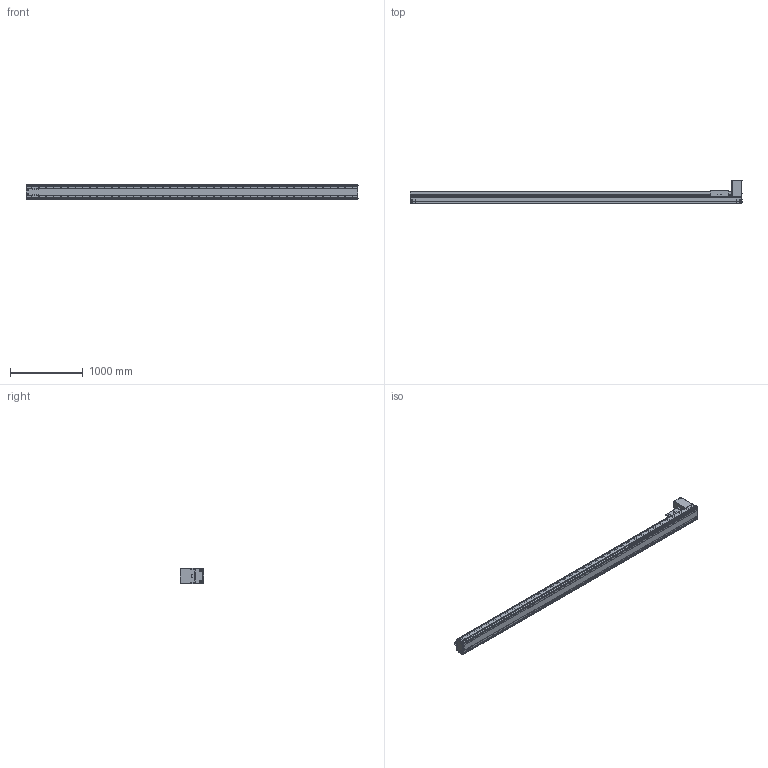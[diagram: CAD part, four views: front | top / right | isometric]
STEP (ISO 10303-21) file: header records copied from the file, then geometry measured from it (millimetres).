
FILE_DESCRIPTION((''),'2;1');
FILE_NAME('BE60J-BT-M19N-X05_IGS_PRT','2017-06-18T',(' '),(''),'PRO/ENGINEER BY PARAMETRIC TECHNOLOGY CORPORATION, 2015030','PRO/ENGINEER BY PARAMETRIC TECHNOLOGY CORPORATION, 2015030','');
FILE_SCHEMA(('CONFIG_CONTROL_DESIGN'));
Products named in the file (1): BE60J-BT-M19N-X05_IGS_PRT
Bounding box: 4554.4 x 327.5 x 214 mm (x, y, z)
Volume: 35683326.2 mm3; surface area: 10442508.8 mm2
Topology: 2 solids, 347 shells, 3031 faces, 9017 edges, 6034 vertices
Faces by surface type: cylinder 1696, plane 995, cone 244, sphere 48, torus 48
Entity records: 105433 total; most frequent: CARTESIAN_POINT 25240, DIRECTION 16445, ORIENTED_EDGE 16072, EDGE_CURVE 8710, AXIS2_PLACEMENT_3D 6329, VERTEX_POINT 5994, EDGE_LOOP 3836, VECTOR 3787
